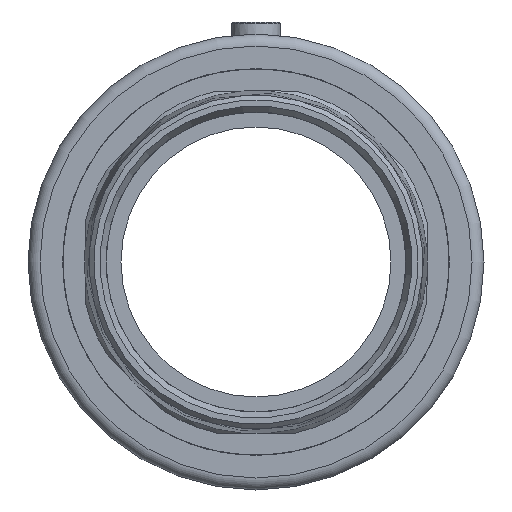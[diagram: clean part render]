
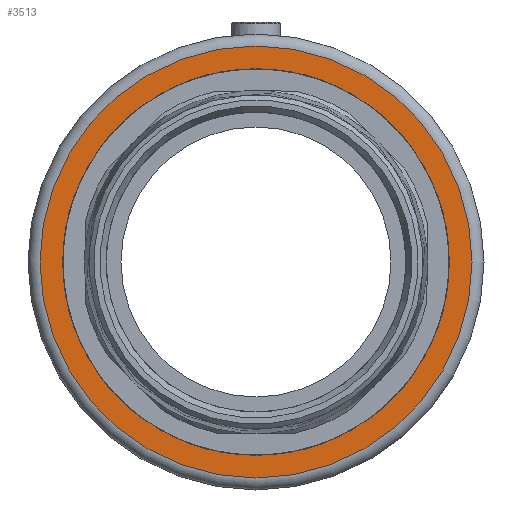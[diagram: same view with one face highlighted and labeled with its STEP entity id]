
A CAD part, left-side view. The second image highlights one B-rep face of the part: STEP entity #3513.
In plain terms, the highlighted planar face has unit normal (-1, 0, 0).
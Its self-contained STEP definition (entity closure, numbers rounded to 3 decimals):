
#537=PLANE('',#4533);
#748=CIRCLE('',#4512,64.5);
#759=CIRCLE('',#4534,72.);
#1261=ORIENTED_EDGE('',*,*,#2068,.T.);
#1262=ORIENTED_EDGE('',*,*,#2057,.T.);
#2057=EDGE_CURVE('',#2504,#2504,#748,.F.);
#2068=EDGE_CURVE('',#2515,#2515,#759,.T.);
#2504=VERTEX_POINT('',#6355);
#2515=VERTEX_POINT('',#6388);
#2911=EDGE_LOOP('',(#1261));
#2912=EDGE_LOOP('',(#1262));
#3223=FACE_BOUND('',#2911,.T.);
#3224=FACE_BOUND('',#2912,.T.);
#3513=ADVANCED_FACE('',(#3223,#3224),#537,.T.);
#4512=AXIS2_PLACEMENT_3D('',#6354,#5213,#5214);
#4533=AXIS2_PLACEMENT_3D('',#6386,#5255,#5256);
#4534=AXIS2_PLACEMENT_3D('',#6387,#5257,#5258);
#5213=DIRECTION('',(-1.,0.,0.));
#5214=DIRECTION('',(0.,0.,1.));
#5255=DIRECTION('',(-1.,0.,0.));
#5256=DIRECTION('',(0.,0.,1.));
#5257=DIRECTION('',(-1.,0.,0.));
#5258=DIRECTION('',(0.,0.,1.));
#6354=CARTESIAN_POINT('',(0.,0.,0.));
#6355=CARTESIAN_POINT('',(0.,0.,64.5));
#6386=CARTESIAN_POINT('',(0.,0.,56.));
#6387=CARTESIAN_POINT('',(0.,0.,0.));
#6388=CARTESIAN_POINT('',(0.,0.,72.));
